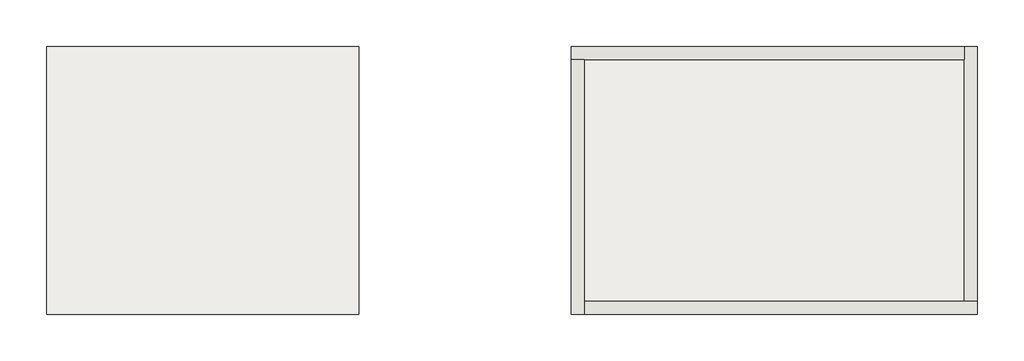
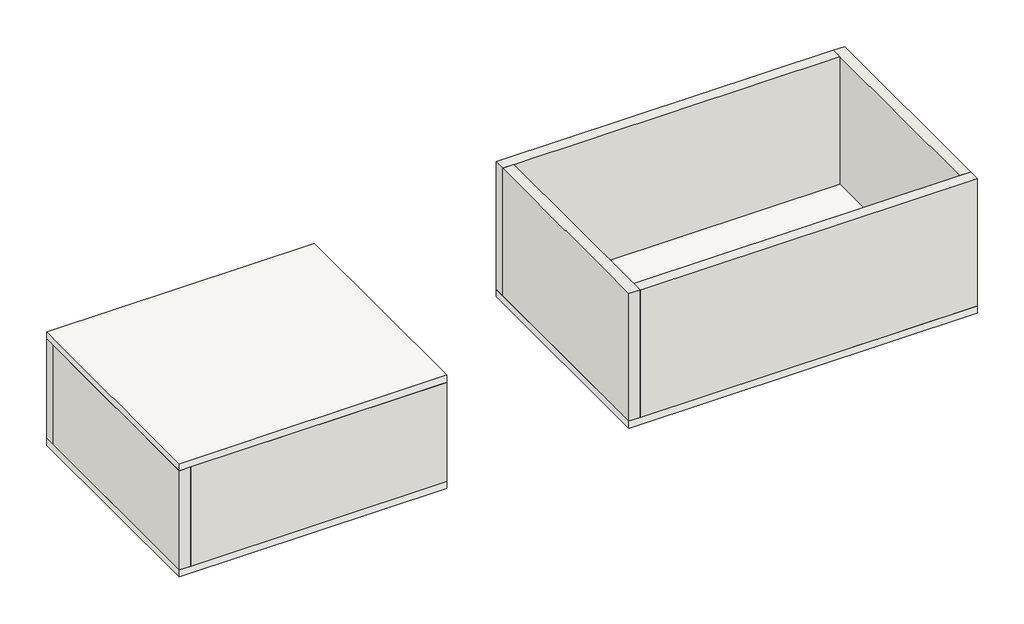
# Not in any storey: 8 walls, 3 slabs.
"""IFC4 building model written with IfcOpenShell, lengths in millimetres."""

from ifc_helpers import new_model, si_unit, frame, origin, place, context, project, spatial, polyline, outline, extrude, faceted_brep, element, save

model = new_model("IFC4")

# Units and contexts
model_context = context("Model", 3, world=origin())
ifc_project = project(units=[si_unit("LENGTHUNIT", "METRE", prefix="MILLI")], contexts=[model_context])

# Site, building
site = spatial("IfcSite", under=ifc_project)
building = spatial("IfcBuilding", under=site)

# Slabs
placement = place(None, origin())
element("IfcSlab", 1, ObjectType="STB 200", at=placement, inside=building, context=model_context, shape_type="SweptSolid", body=[
    extrude(outline(polyline([(19080.8244048, 18575.2757792), (19080.8244048, 12435.2757792), (11940.8244048, 12435.2757792), (11940.8244048, 18575.2757792), (19080.8244048, 18575.2757792)])), frame((0.0, 0.0, -3200.0), z_axis=(0.0, 0.0, 1.0), x_axis=(1.0, 0.0, 0.0)), (0.0, 0.0, 1.0), 200.0),
])
element("IfcSlab", 2, ObjectType="STB 200", at=placement, inside=building, context=model_context, shape_type="SweptSolid", body=[
    extrude(outline(polyline([(33240.8244048, 18575.2757792), (33240.8244048, 12435.2757792), (23940.8244048, 12435.2757792), (23940.8244048, 18575.2757792), (33240.8244048, 18575.2757792)])), frame((0.0, 0.0, -3200.0), z_axis=(0.0, 0.0, 1.0), x_axis=(1.0, 0.0, 0.0)), (0.0, 0.0, 1.0), 200.0),
])
element("IfcSlab", 3, ObjectType="STB 200", at=placement, inside=building, context=model_context, shape_type="SweptSolid", body=[
    extrude(outline(polyline([(19080.8244048, 18575.2757792), (19080.8244048, 12435.2757792), (11940.8244048, 12435.2757792), (11940.8244048, 18575.2757792), (19080.8244048, 18575.2757792)])), frame((0.0, 0.0, -200.0), z_axis=(0.0, 0.0, 1.0), x_axis=(1.0, 0.0, 0.0)), (0.0, 0.0, 1.0), 200.0),
])

# Walls
element("IfcWall", 4, ObjectType="STB 300", at=placement, inside=building, context=model_context, shape_type="Brep", body=[
    faceted_brep([(19080.8244048, 12735.2757792, -3000.0), (18780.8244048, 12735.2757792, -3000.0), (12240.8244048, 12735.2757792, -3000.0), (12240.8244048, 12735.2757792, -200.0), (18780.8244048, 12735.2757792, -200.0), (19080.8244048, 12735.2757792, -200.0), (19080.8244048, 12435.2757792, -3000.0), (19080.8244048, 12435.2757792, -200.0), (12240.8244048, 12435.2757792, -200.0), (12240.8244048, 12435.2757792, -3000.0)], [[[0, 1, 2, 3, 4, 5]], [[6, 7, 8, 9]], [[2, 1, 0, 6, 9]], [[0, 5, 7, 6]], [[3, 2, 9, 8]], [[5, 4, 3, 8, 7]]]),
])
element("IfcWall", 5, ObjectType="STB 300", at=placement, inside=building, context=model_context, shape_type="Brep", body=[
    faceted_brep([(18780.8244048, 18575.2757792, -3000.0), (18780.8244048, 18275.2757792, -3000.0), (18780.8244048, 12735.2757792, -3000.0), (18780.8244048, 12735.2757792, -200.0), (18780.8244048, 18275.2757792, -200.0), (18780.8244048, 18575.2757792, -200.0), (19080.8244048, 18575.2757792, -3000.0), (19080.8244048, 18575.2757792, -200.0), (19080.8244048, 12735.2757792, -200.0), (19080.8244048, 12735.2757792, -3000.0)], [[[0, 1, 2, 3, 4, 5]], [[6, 7, 8, 9]], [[2, 1, 0, 6, 9]], [[0, 5, 7, 6]], [[3, 2, 9, 8]], [[5, 4, 3, 8, 7]]]),
])
element("IfcWall", 6, ObjectType="STB 300", at=placement, inside=building, context=model_context, shape_type="Brep", body=[
    faceted_brep([(11940.8244048, 18275.2757792, -3000.0), (12240.8244048, 18275.2757792, -3000.0), (18780.8244048, 18275.2757792, -3000.0), (18780.8244048, 18275.2757792, -200.0), (12240.8244048, 18275.2757792, -200.0), (11940.8244048, 18275.2757792, -200.0), (11940.8244048, 18575.2757792, -3000.0), (11940.8244048, 18575.2757792, -200.0), (18780.8244048, 18575.2757792, -200.0), (18780.8244048, 18575.2757792, -3000.0)], [[[0, 1, 2, 3, 4, 5]], [[6, 7, 8, 9]], [[2, 1, 0, 6, 9]], [[0, 5, 7, 6]], [[3, 2, 9, 8]], [[5, 4, 3, 8, 7]]]),
])
element("IfcWall", 7, ObjectType="STB 300", at=placement, inside=building, context=model_context, shape_type="Brep", body=[
    faceted_brep([(12240.8244048, 12435.2757792, -3000.0), (12240.8244048, 12735.2757792, -3000.0), (12240.8244048, 18275.2757792, -3000.0), (12240.8244048, 18275.2757792, -200.0), (12240.8244048, 12735.2757792, -200.0), (12240.8244048, 12435.2757792, -200.0), (11940.8244048, 12435.2757792, -3000.0), (11940.8244048, 12435.2757792, -200.0), (11940.8244048, 18275.2757792, -200.0), (11940.8244048, 18275.2757792, -3000.0)], [[[0, 1, 2, 3, 4, 5]], [[6, 7, 8, 9]], [[2, 1, 0, 6, 9]], [[0, 5, 7, 6]], [[3, 2, 9, 8]], [[5, 4, 3, 8, 7]]]),
])
element("IfcWall", 8, ObjectType="STB 300", at=placement, inside=building, context=model_context, shape_type="Brep", body=[
    faceted_brep([(33240.8244048, 12735.2757792, -3000.0), (32940.8244048, 12735.2757792, -3000.0), (24240.8244048, 12735.2757792, -3000.0), (24240.8244048, 12735.2757792, 600.0), (32940.8244048, 12735.2757792, 600.0), (33240.8244048, 12735.2757792, 600.0), (33240.8244048, 12435.2757792, -3000.0), (33240.8244048, 12435.2757792, 600.0), (24240.8244048, 12435.2757792, 600.0), (24240.8244048, 12435.2757792, -3000.0)], [[[0, 1, 2, 3, 4, 5]], [[6, 7, 8, 9]], [[2, 1, 0, 6, 9]], [[5, 4, 3, 8, 7]], [[0, 5, 7, 6]], [[3, 2, 9, 8]]]),
])
element("IfcWall", 9, ObjectType="STB 300", at=placement, inside=building, context=model_context, shape_type="Brep", body=[
    faceted_brep([(32940.8244048, 18575.2757792, -3000.0), (32940.8244048, 18275.2757792, -3000.0), (32940.8244048, 12735.2757792, -3000.0), (32940.8244048, 12735.2757792, 600.0), (32940.8244048, 18275.2757792, 600.0), (32940.8244048, 18575.2757792, 600.0), (33240.8244048, 18575.2757792, -3000.0), (33240.8244048, 18575.2757792, 600.0), (33240.8244048, 12735.2757792, 600.0), (33240.8244048, 12735.2757792, -3000.0)], [[[0, 1, 2, 3, 4, 5]], [[6, 7, 8, 9]], [[2, 1, 0, 6, 9]], [[5, 4, 3, 8, 7]], [[0, 5, 7, 6]], [[3, 2, 9, 8]]]),
])
element("IfcWall", 10, ObjectType="STB 300", at=placement, inside=building, context=model_context, shape_type="Brep", body=[
    faceted_brep([(23940.8244048, 18275.2757792, -3000.0), (24240.8244048, 18275.2757792, -3000.0), (32940.8244048, 18275.2757792, -3000.0), (32940.8244048, 18275.2757792, 600.0), (24240.8244048, 18275.2757792, 600.0), (23940.8244048, 18275.2757792, 600.0), (23940.8244048, 18575.2757792, -3000.0), (23940.8244048, 18575.2757792, 600.0), (32940.8244048, 18575.2757792, 600.0), (32940.8244048, 18575.2757792, -3000.0)], [[[0, 1, 2, 3, 4, 5]], [[6, 7, 8, 9]], [[2, 1, 0, 6, 9]], [[5, 4, 3, 8, 7]], [[0, 5, 7, 6]], [[3, 2, 9, 8]]]),
])
element("IfcWall", 11, ObjectType="STB 300", at=placement, inside=building, context=model_context, shape_type="Brep", body=[
    faceted_brep([(24240.8244048, 12435.2757792, -3000.0), (24240.8244048, 12735.2757792, -3000.0), (24240.8244048, 18275.2757792, -3000.0), (24240.8244048, 18275.2757792, 600.0), (24240.8244048, 12735.2757792, 600.0), (24240.8244048, 12435.2757792, 600.0), (23940.8244048, 12435.2757792, -3000.0), (23940.8244048, 12435.2757792, 600.0), (23940.8244048, 18275.2757792, 600.0), (23940.8244048, 18275.2757792, -3000.0)], [[[0, 1, 2, 3, 4, 5]], [[6, 7, 8, 9]], [[2, 1, 0, 6, 9]], [[5, 4, 3, 8, 7]], [[0, 5, 7, 6]], [[3, 2, 9, 8]]]),
])

save(model, "model.ifc")
